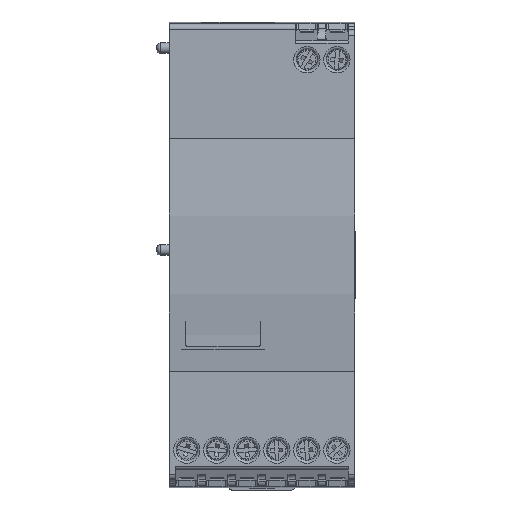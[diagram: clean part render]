
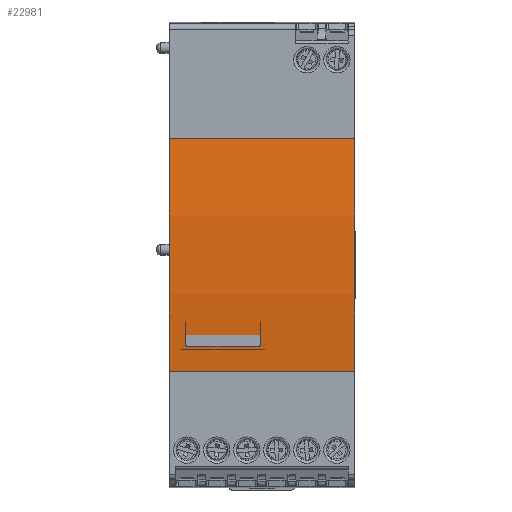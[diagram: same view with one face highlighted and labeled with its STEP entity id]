
A CAD part, front view. The second image highlights one B-rep face of the part: STEP entity #22981.
In plain terms, the highlighted cylindrical face has radius 166 mm (diameter 332 mm), a partial arc.
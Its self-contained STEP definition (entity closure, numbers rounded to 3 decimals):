
#1381=CIRCLE('',#24412,166.);
#1382=CIRCLE('',#24413,166.);
#1721=CYLINDRICAL_SURFACE('',#24411,166.);
#2371=FACE_OUTER_BOUND('',#3371,.T.);
#3371=EDGE_LOOP('',(#19061,#19062,#19063,#19064));
#5150=LINE('',#36566,#7991);
#5151=LINE('',#36570,#7992);
#7991=VECTOR('',#28300,35.8);
#7992=VECTOR('',#28303,35.8);
#10709=VERTEX_POINT('',#36564);
#10710=VERTEX_POINT('',#36565);
#10711=VERTEX_POINT('',#36567);
#10712=VERTEX_POINT('',#36569);
#14004=EDGE_CURVE('',#10709,#10710,#5150,.T.);
#14005=EDGE_CURVE('',#10709,#10711,#1381,.T.);
#14006=EDGE_CURVE('',#10711,#10712,#5151,.T.);
#14007=EDGE_CURVE('',#10710,#10712,#1382,.T.);
#19061=ORIENTED_EDGE('',*,*,#14004,.F.);
#19062=ORIENTED_EDGE('',*,*,#14005,.T.);
#19063=ORIENTED_EDGE('',*,*,#14006,.T.);
#19064=ORIENTED_EDGE('',*,*,#14007,.F.);
#22981=ADVANCED_FACE('',(#2371),#1721,.T.);
#24411=AXIS2_PLACEMENT_3D('',#36563,#28298,#28299);
#24412=AXIS2_PLACEMENT_3D('',#36568,#28301,#28302);
#24413=AXIS2_PLACEMENT_3D('',#36571,#28304,#28305);
#28298=DIRECTION('center_axis',(-1.,0.,0.));
#28299=DIRECTION('ref_axis',(0.,1.,0.));
#28300=DIRECTION('',(1.,0.,0.));
#28301=DIRECTION('center_axis',(1.,0.,0.));
#28302=DIRECTION('ref_axis',(0.,0.,1.));
#28303=DIRECTION('',(1.,0.,0.));
#28304=DIRECTION('center_axis',(1.,0.,0.));
#28305=DIRECTION('ref_axis',(0.,0.,1.));
#36563=CARTESIAN_POINT('Origin',(-8.95,109.82,0.));
#36564=CARTESIAN_POINT('',(-17.9,-54.648,22.5));
#36565=CARTESIAN_POINT('',(17.9,-54.648,22.5));
#36566=CARTESIAN_POINT('',(-17.9,-54.648,22.5));
#36567=CARTESIAN_POINT('',(-17.9,-54.648,-22.5));
#36568=CARTESIAN_POINT('Origin',(-17.9,109.82,0.));
#36569=CARTESIAN_POINT('',(17.9,-54.648,-22.5));
#36570=CARTESIAN_POINT('',(-17.9,-54.648,-22.5));
#36571=CARTESIAN_POINT('Origin',(17.9,109.82,0.));
